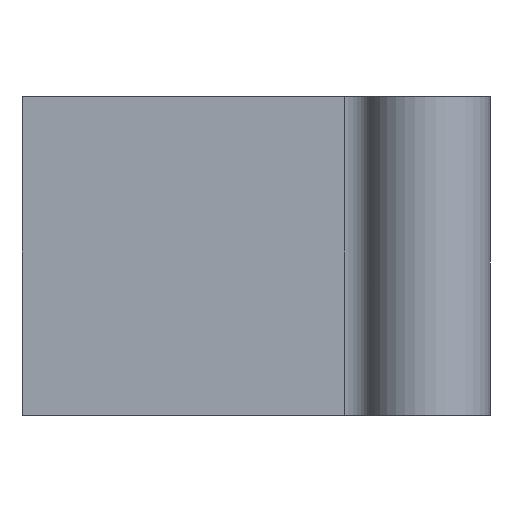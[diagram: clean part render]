
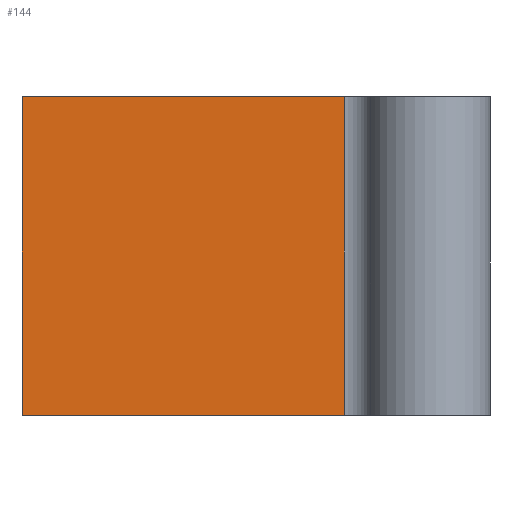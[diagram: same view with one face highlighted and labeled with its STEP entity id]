
A CAD part, top view. The second image highlights one B-rep face of the part: STEP entity #144.
In plain terms, the highlighted planar face has unit normal (0, 0, 1).
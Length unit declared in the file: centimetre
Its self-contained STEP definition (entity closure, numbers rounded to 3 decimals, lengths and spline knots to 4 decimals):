
#19=LINE('',#224,#30);
#21=LINE('',#233,#32);
#22=LINE('',#235,#33);
#23=LINE('',#236,#34);
#30=VECTOR('',#183,1.);
#32=VECTOR('',#193,1.);
#33=VECTOR('',#194,1.);
#34=VECTOR('',#195,1.);
#41=PLANE('',#161);
#52=FACE_OUTER_BOUND('',#62,.T.);
#62=EDGE_LOOP('',(#114,#115,#116,#117));
#76=VERTEX_POINT('',#217);
#79=VERTEX_POINT('',#222);
#82=VERTEX_POINT('',#232);
#83=VERTEX_POINT('',#234);
#91=EDGE_CURVE('',#79,#76,#19,.T.);
#95=EDGE_CURVE('',#82,#79,#21,.T.);
#96=EDGE_CURVE('',#83,#82,#22,.T.);
#97=EDGE_CURVE('',#83,#76,#23,.T.);
#114=ORIENTED_EDGE('',*,*,#91,.F.);
#115=ORIENTED_EDGE('',*,*,#95,.F.);
#116=ORIENTED_EDGE('',*,*,#96,.F.);
#117=ORIENTED_EDGE('',*,*,#97,.T.);
#144=ADVANCED_FACE('',(#52),#41,.T.);
#161=AXIS2_PLACEMENT_3D('',#231,#191,#192);
#183=DIRECTION('',(0.,-1.,0.));
#191=DIRECTION('center_axis',(0.,0.,1.));
#192=DIRECTION('ref_axis',(1.,0.,0.));
#193=DIRECTION('',(1.,0.,0.));
#194=DIRECTION('',(0.,1.,0.));
#195=DIRECTION('',(1.,0.,0.));
#217=CARTESIAN_POINT('',(-0.9108,0.,-0.03));
#222=CARTESIAN_POINT('',(-0.9108,3.4,-0.03));
#224=CARTESIAN_POINT('',(-0.9108,0.,-0.03));
#231=CARTESIAN_POINT('Origin',(-4.35,0.,-0.03));
#232=CARTESIAN_POINT('',(-4.35,3.4,-0.03));
#233=CARTESIAN_POINT('',(-4.35,3.4,-0.03));
#234=CARTESIAN_POINT('',(-4.35,0.,-0.03));
#235=CARTESIAN_POINT('',(-4.35,0.,-0.03));
#236=CARTESIAN_POINT('',(-4.35,0.,-0.03));
